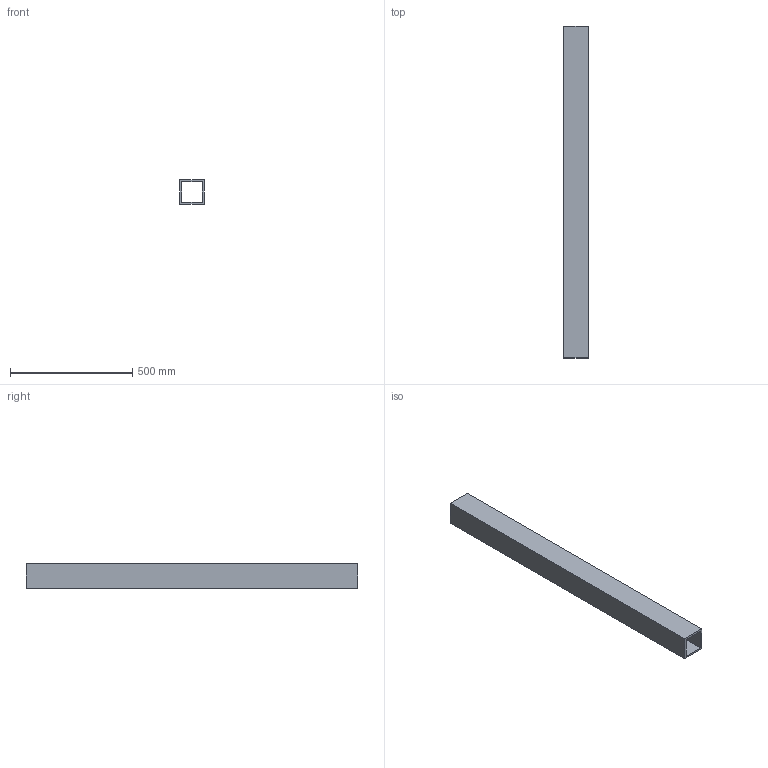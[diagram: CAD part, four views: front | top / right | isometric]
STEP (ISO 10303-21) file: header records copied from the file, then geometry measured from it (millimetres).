
FILE_DESCRIPTION(('Open CASCADE Model'),'2;1');
FILE_NAME('Open CASCADE Shape Model','2026-10-19T10:06:06',('Author'),( 'Open CASCADE'),'Open CASCADE STEP processor 7.8','Open CASCADE 7.8' ,'Unknown');
FILE_SCHEMA(('AUTOMOTIVE_DESIGN { 1 0 10303 214 1 1 1 1 }'));
Length unit declared in the file: millimetre
Products named in the file (1): Open CASCADE STEP translator 7.8 3
Bounding box: 100 x 1360 x 100 mm (x, y, z)
Volume: 4003840 mm3; surface area: 1006848 mm2
Topology: 1 solids, 1 shells, 10 faces, 24 edges, 16 vertices
Faces by surface type: plane 10
Entity records: 598 total; most frequent: CARTESIAN_POINT 115, DIRECTION 78, LINE 56, VECTOR 56, ORIENTED_EDGE 48, PCURVE 48, DEFINITIONAL_REPRESENTATION 48, EDGE_CURVE 24
